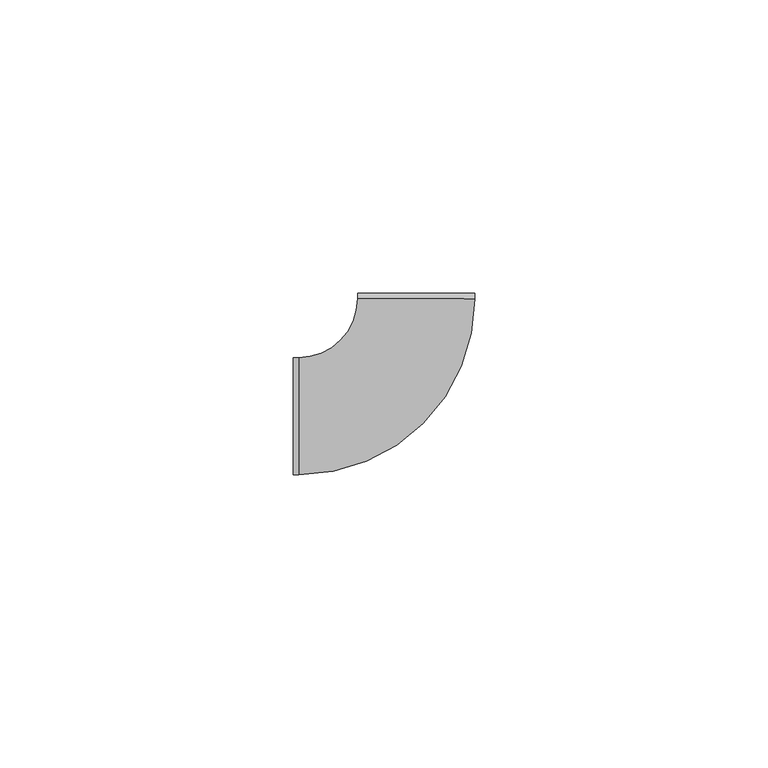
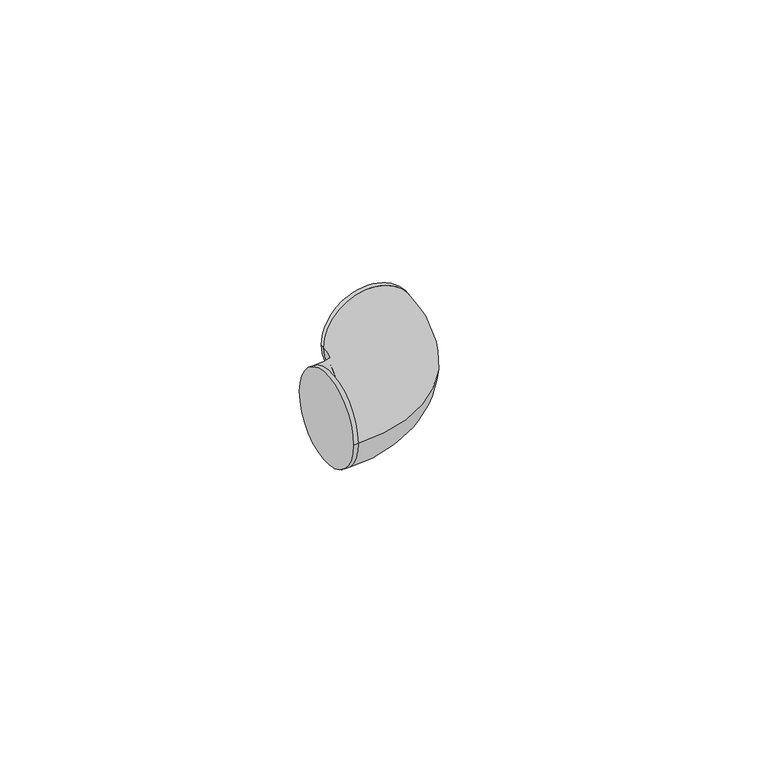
"""IFC4 building model written with IfcOpenShell, lengths in millimetres: cable carrier fitting geometry, ADSK_Поворот_Минимальный размер : Неспецифицируемый."""

from ifc_helpers import new_model, si_unit, point, frame, origin, place, context, project, spatial, circle_curve, ellipse_curve, trimmed, source, transform, mapped, element, save
from ifc_brep_helpers import plane_surface, cylinder_surface, revolved_surface, advanced_brep


def cable_carrier_fitting_0e9b5d50(model_context):
    return source(origin(), model_context, "Body", "AdvancedBrep", [
        advanced_brep(
        [(-20.9985416, -10.0, 0.0), (-20.9985416, 10.0, 0.0), (-19.9985416, -10.0, 0.0), (-19.9985416, 10.0, 0.0), (-9.9985417, 19.9992708, 0.0), (10.0014583, 19.9978124, 0.0), (10.0015312, 20.9978124, 0.0), (-9.9984687, 20.9992708, 0.0)],
        [
            (0, 1, circle_curve(frame((-20.9985416, 0.0, 0.0), z_axis=(-1.0, -4.92260399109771e-12, 0.0), x_axis=(-4.92260399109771e-12, 1.0, 0.0)), 10.0)),
            (1, 0, circle_curve(frame((-20.9985416, 0.0, 0.0), z_axis=(-1.0, -4.92260399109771e-12, 0.0), x_axis=(-4.92260399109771e-12, 1.0, 0.0)), 10.0)),
            (0, 2),
            (2, 3, circle_curve(frame((-19.9985416, 0.0, 0.0), z_axis=(-1.0, -4.92260399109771e-12, 0.0), x_axis=(-4.92260399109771e-12, 1.0, 0.0)), 10.0)),
            (3, 1),
            (3, 2, circle_curve(frame((-19.9985416, 0.0, 0.0), z_axis=(-1.0, -4.92260399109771e-12, 0.0), x_axis=(-4.92260399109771e-12, 1.0, 0.0)), 10.0)),
            (4, 3, circle_curve(frame((-19.9985416, 20.0, 0.0), z_axis=(0.0, 0.0, -1.0), x_axis=(0.0, -1.0, 0.0)), 10.0)),
            (2, 5, circle_curve(frame((-19.9985416, 20.0, 0.0), z_axis=(0.0, 0.0, 1.0), x_axis=(0.0, -1.0, 0.0)), 30.0)),
            (5, 4, circle_curve(frame((0.0014583, 19.9985416, 0.0), z_axis=(-7.292093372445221e-05, -0.9999999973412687, 0.0), x_axis=(-0.9999999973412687, 7.292093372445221e-05, 0.0)), 10.0)),
            (4, 5, circle_curve(frame((0.0014583, 19.9985416, 0.0), z_axis=(-7.292093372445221e-05, -0.9999999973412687, 0.0), x_axis=(-0.9999999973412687, 7.292093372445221e-05, 0.0)), 10.0)),
            (6, 7, circle_curve(frame((0.0015312, 20.9985416, 0.0), z_axis=(7.292093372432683e-05, 0.9999999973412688, 0.0), x_axis=(-0.9999999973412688, 7.292093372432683e-05, 0.0)), 10.0)),
            (7, 6, circle_curve(frame((0.0015312, 20.9985416, 0.0), z_axis=(7.292093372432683e-05, 0.9999999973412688, 0.0), x_axis=(-0.9999999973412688, 7.292093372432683e-05, 0.0)), 10.0)),
            (5, 6),
            (7, 4),
        ],
        [
            plane_surface(frame((-20.9985416, 0.0, 0.0), z_axis=(-1.0, -4.92260399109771e-12, 0.0), x_axis=(0.0, 0.0, 1.0))),
            cylinder_surface(frame((-20.9985416, 0.0, 0.0), z_axis=(-1.0, -4.92260399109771e-12, 0.0), x_axis=(-4.92260399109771e-12, 1.0, 0.0)), 10.0),
            revolved_surface(trimmed(ellipse_curve(frame((-19.9985416, 0.0, 0.0), z_axis=(-1.0, 0.0, 0.0), x_axis=(0.0, 1.0, 0.0)), 10.0, 10.0), [point((-19.9985416, -10.0, 0.0))], [point((-19.9985416, 10.0, 0.0))], True, "CARTESIAN"), (-19.9985416, 20.0, 0.0), (0.0, 0.0, 1.0)),
            revolved_surface(trimmed(ellipse_curve(frame((-19.9985416, 0.0, 0.0), z_axis=(-1.0, 0.0, 0.0), x_axis=(0.0, 1.0, 0.0)), 10.0, 10.0), [point((-19.9985416, 10.0, 0.0))], [point((-19.9985416, -10.0, 0.0))], True, "CARTESIAN"), (-19.9985416, 20.0, 0.0), (0.0, 0.0, 1.0)),
            plane_surface(frame((0.0015312, 20.9985416, 0.0), z_axis=(7.292093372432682e-05, 0.9999999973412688, 0.0), x_axis=(0.0, 0.0, 1.0))),
            cylinder_surface(frame((0.0014583, 19.9985416, 0.0), z_axis=(-7.292093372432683e-05, -0.9999999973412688, 0.0), x_axis=(-0.9999999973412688, 7.292093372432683e-05, 0.0)), 10.0),
        ],
        [
            (0, [[1, 2]]),
            (1, [[-1, 3, 4, 5]]),
            (1, [[-2, -5, 6, -3]]),
            (2, [[7, -4, 8, 9]]),
            (3, [[-8, -6, -7, 10]]),
            (4, [[11, 12]]),
            (5, [[-9, 13, -12, 14]]),
            (5, [[-10, -14, -11, -13]]),
        ],
    ),
    ])


if __name__ == "__main__":
    model = new_model("IFC4")
    model_context = context("Model", 3, world=origin())
    ifc_project = project(units=[si_unit("LENGTHUNIT", "METRE", prefix="MILLI")], contexts=[model_context])
    site = spatial("IfcSite", under=ifc_project)
    building = spatial("IfcBuilding", under=site)
    placement = place(None, origin())
    cable_carrier_fitting_shape = cable_carrier_fitting_0e9b5d50(model_context)
    element("IfcCableCarrierFitting", 1, ObjectType="ADSK_Поворот_Минимальный размер : Неспецифицируемый", at=placement, inside=building, context=model_context, shape_type="MappedRepresentation", body=[
        mapped(cable_carrier_fitting_shape, transform((0.0, 0.0, 0.0), x_axis=(1.0, 0.0, 0.0), y_axis=(0.0, 1.0, 0.0), z_axis=(0.0, 0.0, 1.0))),
    ])
    save(model, "model.ifc")
